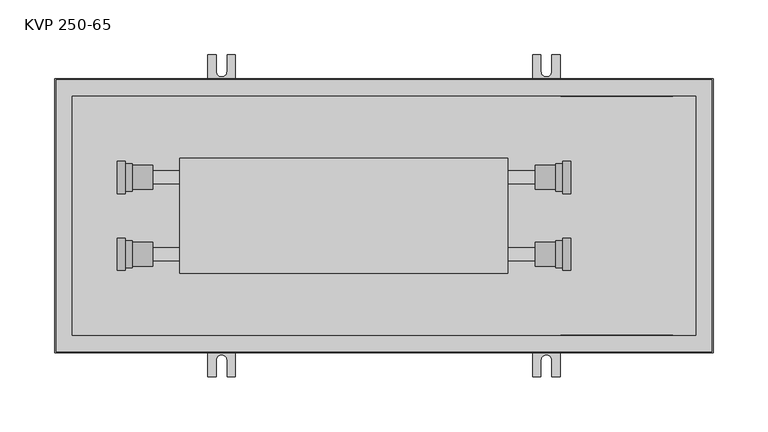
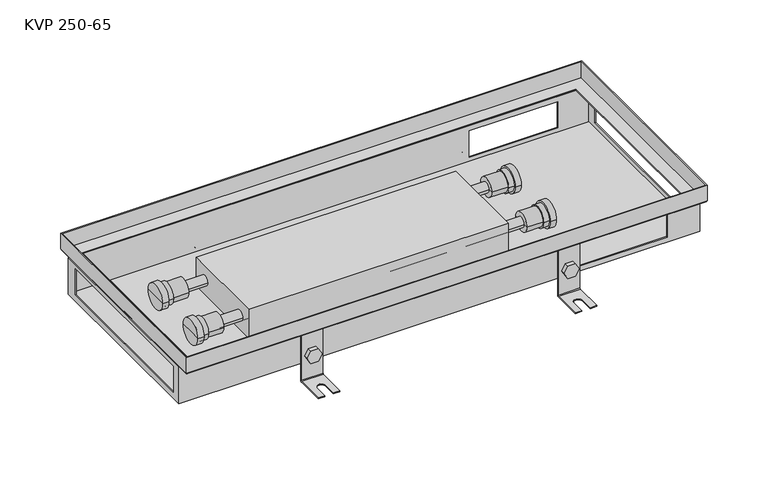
"""IFC4 building model written with IfcOpenShell, lengths in millimetres: proxy geometry, TECHNO_Конвектор встраиваемый_Usual_KVP-250_65 : KVP 250-65."""

from ifc_helpers import new_model, si_unit, point, frame, frame_2d, origin, place, context, project, spatial, polyline, circle_curve, ellipse_curve, trimmed, segment, composite_curve, outline, extrude, faceted_brep, source, transform, mapped, element, save
from ifc_brep_helpers import plane_surface, cylinder_surface, revolved_surface, advanced_brep


def kvp_250_65_a84a4c21(model_context):
    return source(origin(), model_context, "Body", "SolidModel", [
        extrude(outline(composite_curve([segment(trimmed(circle_curve(frame_2d((-55.5, 448.0)), 7.5), [point((-55.5, 440.5))], [point((-55.5, 455.5))], False, "CARTESIAN"), True, "CONTINUOUS"), segment(trimmed(circle_curve(frame_2d((-55.5, 448.0)), 7.5), [point((-55.5, 455.5))], [point((-55.5, 440.5))], False, "CARTESIAN"), True, "CONTINUOUS")], self_intersect=False)), frame((0.0, 110.2, 0.0), z_axis=(0.0, 1.0, 0.0), x_axis=(0.0, 0.0, 1.0)), (0.0, 0.0, 1.0), 1.5),
        extrude(outline(polyline([(-55.5, 439.339746), (-63.0, 443.669873), (-63.0, 452.330127), (-55.5, 456.660254), (-48.0, 452.330127), (-48.0, 443.669873), (-55.5, 439.339746)])), frame((0.0, 112.9, 0.0), z_axis=(0.0, 1.0, 0.0), x_axis=(0.0, 0.0, 1.0)), (0.0, 0.0, 1.0), 5.1),
        advanced_brep(
        [(460.5, 112.9, -20.5), (460.5, 111.7, -20.5), (460.5, 111.7, -83.5), (460.5, 113.7, -85.5), (460.5, 146.7, -85.5), (460.5, 146.7, -84.3), (460.5, 113.7, -84.3), (460.5, 112.9, -83.5), (435.5, 112.9, -20.5), (435.5, 112.9, -83.5), (435.5, 113.7, -84.3), (435.5, 146.7, -84.3), (435.5, 146.7, -85.5), (435.5, 113.7, -85.5), (435.5, 111.7, -83.5), (435.5, 111.7, -20.5), (453.0, 146.7, -84.3), (453.0, 131.7, -84.3), (443.0, 131.7, -84.3), (443.0, 146.7, -84.3), (443.0, 146.7, -85.5), (453.0, 146.7, -85.5), (443.0, 131.7, -85.5), (453.0, 131.7, -85.5)],
        [
            (0, 1),
            (1, 2),
            (2, 3, circle_curve(frame((460.5, 113.7, -83.5), z_axis=(1.0, 0.0, 0.0), x_axis=(0.0, 1.0, 0.0)), 2.0)),
            (3, 4),
            (4, 5),
            (5, 6),
            (6, 7, circle_curve(frame((460.5, 113.7, -83.5), z_axis=(-1.0, 0.0, 0.0), x_axis=(0.0, 1.0, 0.0)), 0.8)),
            (7, 0),
            (8, 9),
            (9, 10, circle_curve(frame((435.5, 113.7, -83.5), z_axis=(1.0, 0.0, 0.0), x_axis=(0.0, 1.0, 0.0)), 0.8)),
            (10, 11),
            (11, 12),
            (12, 13),
            (13, 14, circle_curve(frame((435.5, 113.7, -83.5), z_axis=(-1.0, 0.0, 0.0), x_axis=(0.0, 1.0, 0.0)), 2.0)),
            (14, 15),
            (15, 8),
            (7, 9),
            (8, 0),
            (6, 10),
            (5, 16),
            (16, 17),
            (17, 18, circle_curve(frame((448.0, 131.7, -84.3), z_axis=(0.0, 0.0, -1.0), x_axis=(1.0, 0.0, 0.0)), 5.0)),
            (18, 19),
            (19, 11),
            (19, 20),
            (20, 12),
            (4, 21),
            (21, 16),
            (3, 13),
            (20, 22),
            (22, 23, circle_curve(frame((448.0, 131.7, -85.5), z_axis=(0.0, 0.0, 1.0), x_axis=(1.0, 0.0, 0.0)), 5.0)),
            (23, 21),
            (2, 14),
            (1, 15),
            (18, 22),
            (23, 17),
        ],
        [
            plane_surface(frame((460.5, 112.9, -20.5), z_axis=(1.0, 0.0, 0.0), x_axis=(0.0, 0.0, -1.0))),
            plane_surface(frame((435.5, 112.9, -20.5), z_axis=(-1.0, 0.0, 0.0), x_axis=(0.0, 0.0, 1.0))),
            plane_surface(frame((460.5, 112.9, -20.5), z_axis=(0.0, 1.0, 0.0), x_axis=(-1.0, 0.0, 0.0))),
            revolved_surface(polyline([(435.5, 114.5, -83.5), (460.5, 114.5, -83.5)]), (435.5, 113.7, -83.5), (-1.0, 0.0, 0.0)),
            plane_surface(frame((460.5, 113.7, -84.3), z_axis=(0.0, 0.0, 1.0), x_axis=(-1.0, 0.0, 0.0))),
            plane_surface(frame((460.5, 146.7, -84.3), z_axis=(0.0, 1.0, 0.0), x_axis=(-1.0, 0.0, 0.0))),
            plane_surface(frame((460.5, 146.7, -85.5), z_axis=(0.0, 0.0, -1.0), x_axis=(-1.0, 0.0, 0.0))),
            cylinder_surface(frame((435.5, 113.7, -83.5), z_axis=(1.0, 0.0, 0.0), x_axis=(0.0, 1.0, 0.0)), 2.0),
            plane_surface(frame((460.5, 111.7, -83.5), z_axis=(0.0, -1.0, 0.0), x_axis=(-1.0, 0.0, 0.0))),
            plane_surface(frame((460.5, 111.7, -20.5), z_axis=(0.0, 0.0, 1.0), x_axis=(-1.0, 0.0, 0.0))),
            plane_surface(frame((443.0, 131.7, -84.3), z_axis=(1.0, 0.0, 0.0), x_axis=(0.0, 0.0, -1.0))),
            plane_surface(frame((453.0, 146.7, -84.3), z_axis=(-1.0, 0.0, 0.0), x_axis=(0.0, 0.0, -1.0))),
            revolved_surface(polyline([(453.0, 131.7, -84.3), (453.0, 131.7, -85.5)]), (448.0, 131.7, -85.5), (0.0, 0.0, 1.0)),
        ],
        [
            (0, [[1, 2, 3, 4, 5, 6, 7, 8]]),
            (1, [[9, 10, 11, 12, 13, 14, 15, 16]]),
            (2, [[17, -9, 18, -8]]),
            (3, [[19, -10, -17, -7]]),
            (4, [[20, 21, 22, 23, 24, -11, -19, -6]]),
            (5, [[-24, 25, 26, -12]]),
            (5, [[27, 28, -20, -5]]),
            (6, [[29, -13, -26, 30, 31, 32, -27, -4]]),
            (7, [[33, -14, -29, -3]]),
            (8, [[34, -15, -33, -2]]),
            (9, [[-18, -16, -34, -1]]),
            (10, [[-30, -25, -23, 35]]),
            (11, [[-21, -28, -32, 36]]),
            (12, [[-22, -36, -31, -35]]),
        ],
    ),
        extrude(outline(composite_curve([segment(trimmed(circle_curve(frame_2d((-55.5, 448.0)), 7.5), [point((-55.5, 440.5))], [point((-55.5, 455.5))], False, "CARTESIAN"), True, "CONTINUOUS"), segment(trimmed(circle_curve(frame_2d((-55.5, 448.0)), 7.5), [point((-55.5, 455.5))], [point((-55.5, 440.5))], False, "CARTESIAN"), True, "CONTINUOUS")], self_intersect=False)), frame((0.0, -111.7, 0.0), z_axis=(0.0, 1.0, 0.0), x_axis=(0.0, 0.0, 1.0)), (0.0, 0.0, 1.0), 1.5),
        extrude(outline(polyline([(-55.5, 439.339746), (-63.0, 443.669873), (-63.0, 452.330127), (-55.5, 456.660254), (-48.0, 452.330127), (-48.0, 443.669873), (-55.5, 439.339746)])), frame((0.0, -118.0, 0.0), z_axis=(0.0, 1.0, 0.0), x_axis=(0.0, 0.0, 1.0)), (0.0, 0.0, 1.0), 5.1),
        advanced_brep(
        [(460.5, -112.9, -20.5), (460.5, -112.9, -83.5), (460.5, -113.7, -84.3), (460.5, -146.7, -84.3), (460.5, -146.7, -85.5), (460.5, -113.7, -85.5), (460.5, -111.7, -83.5), (460.5, -111.7, -20.5), (435.5, -112.9, -20.5), (435.5, -111.7, -20.5), (435.5, -111.7, -83.5), (435.5, -113.7, -85.5), (435.5, -146.7, -85.5), (435.5, -146.7, -84.3), (435.5, -113.7, -84.3), (435.5, -112.9, -83.5), (443.0, -146.7, -84.3), (443.0, -131.7, -84.3), (453.0, -131.7, -84.3), (453.0, -146.7, -84.3), (453.0, -146.7, -85.5), (443.0, -146.7, -85.5), (453.0, -131.7, -85.5), (443.0, -131.7, -85.5)],
        [
            (0, 1),
            (1, 2, circle_curve(frame((460.5, -113.7, -83.5), z_axis=(-1.0, 0.0, 0.0), x_axis=(0.0, -1.0, 0.0)), 0.8)),
            (2, 3),
            (3, 4),
            (4, 5),
            (5, 6, circle_curve(frame((460.5, -113.7, -83.5), z_axis=(1.0, 0.0, 0.0), x_axis=(0.0, -1.0, 0.0)), 2.0)),
            (6, 7),
            (7, 0),
            (8, 9),
            (9, 10),
            (10, 11, circle_curve(frame((435.5, -113.7, -83.5), z_axis=(-1.0, 0.0, 0.0), x_axis=(0.0, -1.0, 0.0)), 2.0)),
            (11, 12),
            (12, 13),
            (13, 14),
            (14, 15, circle_curve(frame((435.5, -113.7, -83.5), z_axis=(1.0, 0.0, 0.0), x_axis=(0.0, -1.0, 0.0)), 0.8)),
            (15, 8),
            (0, 8),
            (15, 1),
            (14, 2),
            (13, 16),
            (16, 17),
            (17, 18, circle_curve(frame((448.0, -131.7, -84.3), z_axis=(0.0, 0.0, -1.0), x_axis=(1.0, 0.0, 0.0)), 5.0)),
            (18, 19),
            (19, 3),
            (19, 20),
            (20, 4),
            (12, 21),
            (21, 16),
            (20, 22),
            (22, 23, circle_curve(frame((448.0, -131.7, -85.5), z_axis=(0.0, 0.0, 1.0), x_axis=(1.0, 0.0, 0.0)), 5.0)),
            (23, 21),
            (11, 5),
            (10, 6),
            (9, 7),
            (23, 17),
            (18, 22),
        ],
        [
            plane_surface(frame((460.5, -112.9, -20.5), z_axis=(1.0, 0.0, 0.0), x_axis=(0.0, 0.0, -1.0))),
            plane_surface(frame((435.5, -112.9, -20.5), z_axis=(-1.0, 0.0, 0.0), x_axis=(0.0, 0.0, 1.0))),
            plane_surface(frame((460.5, -112.9, -20.5), z_axis=(0.0, -1.0, 0.0), x_axis=(-1.0, 0.0, 0.0))),
            revolved_surface(polyline([(435.5, -114.5, -83.5), (460.5, -114.5, -83.5)]), (435.5, -113.7, -83.5), (-1.0, 0.0, 0.0)),
            plane_surface(frame((460.5, -113.7, -84.3), z_axis=(0.0, 0.0, 1.0), x_axis=(-1.0, 0.0, 0.0))),
            plane_surface(frame((460.5, -146.7, -84.3), z_axis=(0.0, -1.0, 0.0), x_axis=(-1.0, 0.0, 0.0))),
            plane_surface(frame((460.5, -146.7, -85.5), z_axis=(0.0, 0.0, -1.0), x_axis=(-1.0, 0.0, 0.0))),
            cylinder_surface(frame((435.5, -113.7, -83.5), z_axis=(1.0, 0.0, 0.0), x_axis=(0.0, -1.0, 0.0)), 2.0),
            plane_surface(frame((460.5, -111.7, -83.5), z_axis=(0.0, 1.0, 0.0), x_axis=(-1.0, 0.0, 0.0))),
            plane_surface(frame((460.5, -111.7, -20.5), z_axis=(0.0, 0.0, 1.0), x_axis=(-1.0, 0.0, 0.0))),
            plane_surface(frame((443.0, -131.7, -84.3), z_axis=(1.0, 0.0, 0.0), x_axis=(0.0, 0.0, -1.0))),
            plane_surface(frame((453.0, -146.7, -84.3), z_axis=(-1.0, 0.0, 0.0), x_axis=(0.0, 0.0, -1.0))),
            revolved_surface(polyline([(453.0, -131.7, -84.3), (453.0, -131.7, -85.5)]), (448.0, -131.7, -85.5), (0.0, 0.0, 1.0)),
        ],
        [
            (0, [[1, 2, 3, 4, 5, 6, 7, 8]]),
            (1, [[9, 10, 11, 12, 13, 14, 15, 16]]),
            (2, [[-1, 17, -16, 18]]),
            (3, [[-2, -18, -15, 19]]),
            (4, [[-3, -19, -14, 20, 21, 22, 23, 24]]),
            (5, [[-4, -24, 25, 26]]),
            (5, [[-13, 27, 28, -20]]),
            (6, [[-5, -26, 29, 30, 31, -27, -12, 32]]),
            (7, [[-6, -32, -11, 33]]),
            (8, [[-7, -33, -10, 34]]),
            (9, [[-8, -34, -9, -17]]),
            (10, [[35, -21, -28, -31]]),
            (11, [[36, -29, -25, -23]]),
            (12, [[-35, -30, -36, -22]]),
        ],
    ),
        extrude(outline(composite_curve([segment(trimmed(circle_curve(frame_2d((-55.5, 152.0)), 7.5), [point((-55.5, 144.5))], [point((-55.5, 159.5))], False, "CARTESIAN"), True, "CONTINUOUS"), segment(trimmed(circle_curve(frame_2d((-55.5, 152.0)), 7.5), [point((-55.5, 159.5))], [point((-55.5, 144.5))], False, "CARTESIAN"), True, "CONTINUOUS")], self_intersect=False)), frame((0.0, 110.2, 0.0), z_axis=(0.0, 1.0, 0.0), x_axis=(0.0, 0.0, 1.0)), (0.0, 0.0, 1.0), 1.5),
        extrude(outline(polyline([(-55.5, 143.339746), (-63.0, 147.669873), (-63.0, 156.330127), (-55.5, 160.660254), (-48.0, 156.330127), (-48.0, 147.669873), (-55.5, 143.339746)])), frame((0.0, 112.9, 0.0), z_axis=(0.0, 1.0, 0.0), x_axis=(0.0, 0.0, 1.0)), (0.0, 0.0, 1.0), 5.1),
        advanced_brep(
        [(164.5, 112.9, -20.5), (164.5, 111.7, -20.5), (164.5, 111.7, -83.5), (164.5, 113.7, -85.5), (164.5, 146.7, -85.5), (164.5, 146.7, -84.3), (164.5, 113.7, -84.3), (164.5, 112.9, -83.5), (139.5, 112.9, -20.5), (139.5, 112.9, -83.5), (139.5, 113.7, -84.3), (139.5, 146.7, -84.3), (139.5, 146.7, -85.5), (139.5, 113.7, -85.5), (139.5, 111.7, -83.5), (139.5, 111.7, -20.5), (157.0, 146.7, -84.3), (157.0, 131.7, -84.3), (147.0, 131.7, -84.3), (147.0, 146.7, -84.3), (147.0, 146.7, -85.5), (157.0, 146.7, -85.5), (147.0, 131.7, -85.5), (157.0, 131.7, -85.5)],
        [
            (0, 1),
            (1, 2),
            (2, 3, circle_curve(frame((164.5, 113.7, -83.5), z_axis=(1.0, 0.0, 0.0), x_axis=(0.0, 1.0, 0.0)), 2.0)),
            (3, 4),
            (4, 5),
            (5, 6),
            (6, 7, circle_curve(frame((164.5, 113.7, -83.5), z_axis=(-1.0, 0.0, 0.0), x_axis=(0.0, 1.0, 0.0)), 0.8)),
            (7, 0),
            (8, 9),
            (9, 10, circle_curve(frame((139.5, 113.7, -83.5), z_axis=(1.0, 0.0, 0.0), x_axis=(0.0, 1.0, 0.0)), 0.8)),
            (10, 11),
            (11, 12),
            (12, 13),
            (13, 14, circle_curve(frame((139.5, 113.7, -83.5), z_axis=(-1.0, 0.0, 0.0), x_axis=(0.0, 1.0, 0.0)), 2.0)),
            (14, 15),
            (15, 8),
            (7, 9),
            (8, 0),
            (6, 10),
            (5, 16),
            (16, 17),
            (17, 18, circle_curve(frame((152.0, 131.7, -84.3), z_axis=(0.0, 0.0, -1.0), x_axis=(1.0, 0.0, 0.0)), 5.0)),
            (18, 19),
            (19, 11),
            (19, 20),
            (20, 12),
            (4, 21),
            (21, 16),
            (3, 13),
            (20, 22),
            (22, 23, circle_curve(frame((152.0, 131.7, -85.5), z_axis=(0.0, 0.0, 1.0), x_axis=(1.0, 0.0, 0.0)), 5.0)),
            (23, 21),
            (2, 14),
            (1, 15),
            (18, 22),
            (23, 17),
        ],
        [
            plane_surface(frame((164.5, 112.9, -20.5), z_axis=(1.0, 0.0, 0.0), x_axis=(0.0, 0.0, -1.0))),
            plane_surface(frame((139.5, 112.9, -20.5), z_axis=(-1.0, 0.0, 0.0), x_axis=(0.0, 0.0, 1.0))),
            plane_surface(frame((164.5, 112.9, -20.5), z_axis=(0.0, 1.0, 0.0), x_axis=(-1.0, 0.0, 0.0))),
            revolved_surface(polyline([(139.5, 114.5, -83.5), (164.5, 114.5, -83.5)]), (139.5, 113.7, -83.5), (-1.0, 0.0, 0.0)),
            plane_surface(frame((164.5, 113.7, -84.3), z_axis=(0.0, 0.0, 1.0), x_axis=(-1.0, 0.0, 0.0))),
            plane_surface(frame((164.5, 146.7, -84.3), z_axis=(0.0, 1.0, 0.0), x_axis=(-1.0, 0.0, 0.0))),
            plane_surface(frame((164.5, 146.7, -85.5), z_axis=(0.0, 0.0, -1.0), x_axis=(-1.0, 0.0, 0.0))),
            cylinder_surface(frame((139.5, 113.7, -83.5), z_axis=(1.0, 0.0, 0.0), x_axis=(0.0, 1.0, 0.0)), 2.0),
            plane_surface(frame((164.5, 111.7, -83.5), z_axis=(0.0, -1.0, 0.0), x_axis=(-1.0, 0.0, 0.0))),
            plane_surface(frame((164.5, 111.7, -20.5), z_axis=(0.0, 0.0, 1.0), x_axis=(-1.0, 0.0, 0.0))),
            plane_surface(frame((147.0, 131.7, -84.3), z_axis=(1.0, 0.0, 0.0), x_axis=(0.0, 0.0, -1.0))),
            plane_surface(frame((157.0, 146.7, -84.3), z_axis=(-1.0, 0.0, 0.0), x_axis=(0.0, 0.0, -1.0))),
            revolved_surface(polyline([(157.0, 131.7, -84.3), (157.0, 131.7, -85.5)]), (152.0, 131.7, -85.5), (0.0, 0.0, 1.0)),
        ],
        [
            (0, [[1, 2, 3, 4, 5, 6, 7, 8]]),
            (1, [[9, 10, 11, 12, 13, 14, 15, 16]]),
            (2, [[17, -9, 18, -8]]),
            (3, [[19, -10, -17, -7]]),
            (4, [[20, 21, 22, 23, 24, -11, -19, -6]]),
            (5, [[-24, 25, 26, -12]]),
            (5, [[27, 28, -20, -5]]),
            (6, [[29, -13, -26, 30, 31, 32, -27, -4]]),
            (7, [[33, -14, -29, -3]]),
            (8, [[34, -15, -33, -2]]),
            (9, [[-18, -16, -34, -1]]),
            (10, [[-30, -25, -23, 35]]),
            (11, [[-21, -28, -32, 36]]),
            (12, [[-22, -36, -31, -35]]),
        ],
    ),
        extrude(outline(composite_curve([segment(trimmed(circle_curve(frame_2d((-55.5, 152.0)), 7.5), [point((-55.5, 144.5))], [point((-55.5, 159.5))], False, "CARTESIAN"), True, "CONTINUOUS"), segment(trimmed(circle_curve(frame_2d((-55.5, 152.0)), 7.5), [point((-55.5, 159.5))], [point((-55.5, 144.5))], False, "CARTESIAN"), True, "CONTINUOUS")], self_intersect=False)), frame((0.0, -111.7, 0.0), z_axis=(0.0, 1.0, 0.0), x_axis=(0.0, 0.0, 1.0)), (0.0, 0.0, 1.0), 1.5),
        extrude(outline(polyline([(-55.5, 143.339746), (-63.0, 147.669873), (-63.0, 156.330127), (-55.5, 160.660254), (-48.0, 156.330127), (-48.0, 147.669873), (-55.5, 143.339746)])), frame((0.0, -118.0, 0.0), z_axis=(0.0, 1.0, 0.0), x_axis=(0.0, 0.0, 1.0)), (0.0, 0.0, 1.0), 5.1),
        advanced_brep(
        [(164.5, -112.9, -20.5), (164.5, -112.9, -83.5), (164.5, -113.7, -84.3), (164.5, -146.7, -84.3), (164.5, -146.7, -85.5), (164.5, -113.7, -85.5), (164.5, -111.7, -83.5), (164.5, -111.7, -20.5), (139.5, -112.9, -20.5), (139.5, -111.7, -20.5), (139.5, -111.7, -83.5), (139.5, -113.7, -85.5), (139.5, -146.7, -85.5), (139.5, -146.7, -84.3), (139.5, -113.7, -84.3), (139.5, -112.9, -83.5), (147.0, -146.7, -84.3), (147.0, -131.7, -84.3), (157.0, -131.7, -84.3), (157.0, -146.7, -84.3), (157.0, -146.7, -85.5), (147.0, -146.7, -85.5), (157.0, -131.7, -85.5), (147.0, -131.7, -85.5)],
        [
            (0, 1),
            (1, 2, circle_curve(frame((164.5, -113.7, -83.5), z_axis=(-1.0, 0.0, 0.0), x_axis=(0.0, -1.0, 0.0)), 0.8)),
            (2, 3),
            (3, 4),
            (4, 5),
            (5, 6, circle_curve(frame((164.5, -113.7, -83.5), z_axis=(1.0, 0.0, 0.0), x_axis=(0.0, -1.0, 0.0)), 2.0)),
            (6, 7),
            (7, 0),
            (8, 9),
            (9, 10),
            (10, 11, circle_curve(frame((139.5, -113.7, -83.5), z_axis=(-1.0, 0.0, 0.0), x_axis=(0.0, -1.0, 0.0)), 2.0)),
            (11, 12),
            (12, 13),
            (13, 14),
            (14, 15, circle_curve(frame((139.5, -113.7, -83.5), z_axis=(1.0, 0.0, 0.0), x_axis=(0.0, -1.0, 0.0)), 0.8)),
            (15, 8),
            (0, 8),
            (15, 1),
            (14, 2),
            (13, 16),
            (16, 17),
            (17, 18, circle_curve(frame((152.0, -131.7, -84.3), z_axis=(0.0, 0.0, -1.0), x_axis=(1.0, 0.0, 0.0)), 5.0)),
            (18, 19),
            (19, 3),
            (19, 20),
            (20, 4),
            (12, 21),
            (21, 16),
            (20, 22),
            (22, 23, circle_curve(frame((152.0, -131.7, -85.5), z_axis=(0.0, 0.0, 1.0), x_axis=(1.0, 0.0, 0.0)), 5.0)),
            (23, 21),
            (11, 5),
            (10, 6),
            (9, 7),
            (23, 17),
            (18, 22),
        ],
        [
            plane_surface(frame((164.5, -112.9, -20.5), z_axis=(1.0, 0.0, 0.0), x_axis=(0.0, 0.0, -1.0))),
            plane_surface(frame((139.5, -112.9, -20.5), z_axis=(-1.0, 0.0, 0.0), x_axis=(0.0, 0.0, 1.0))),
            plane_surface(frame((164.5, -112.9, -20.5), z_axis=(0.0, -1.0, 0.0), x_axis=(-1.0, 0.0, 0.0))),
            revolved_surface(polyline([(139.5, -114.5, -83.5), (164.5, -114.5, -83.5)]), (139.5, -113.7, -83.5), (-1.0, 0.0, 0.0)),
            plane_surface(frame((164.5, -113.7, -84.3), z_axis=(0.0, 0.0, 1.0), x_axis=(-1.0, 0.0, 0.0))),
            plane_surface(frame((164.5, -146.7, -84.3), z_axis=(0.0, -1.0, 0.0), x_axis=(-1.0, 0.0, 0.0))),
            plane_surface(frame((164.5, -146.7, -85.5), z_axis=(0.0, 0.0, -1.0), x_axis=(-1.0, 0.0, 0.0))),
            cylinder_surface(frame((139.5, -113.7, -83.5), z_axis=(1.0, 0.0, 0.0), x_axis=(0.0, -1.0, 0.0)), 2.0),
            plane_surface(frame((164.5, -111.7, -83.5), z_axis=(0.0, 1.0, 0.0), x_axis=(-1.0, 0.0, 0.0))),
            plane_surface(frame((164.5, -111.7, -20.5), z_axis=(0.0, 0.0, 1.0), x_axis=(-1.0, 0.0, 0.0))),
            plane_surface(frame((147.0, -131.7, -84.3), z_axis=(1.0, 0.0, 0.0), x_axis=(0.0, 0.0, -1.0))),
            plane_surface(frame((157.0, -146.7, -84.3), z_axis=(-1.0, 0.0, 0.0), x_axis=(0.0, 0.0, -1.0))),
            revolved_surface(polyline([(157.0, -131.7, -84.3), (157.0, -131.7, -85.5)]), (152.0, -131.7, -85.5), (0.0, 0.0, 1.0)),
        ],
        [
            (0, [[1, 2, 3, 4, 5, 6, 7, 8]]),
            (1, [[9, 10, 11, 12, 13, 14, 15, 16]]),
            (2, [[-1, 17, -16, 18]]),
            (3, [[-2, -18, -15, 19]]),
            (4, [[-3, -19, -14, 20, 21, 22, 23, 24]]),
            (5, [[-4, -24, 25, 26]]),
            (5, [[-13, 27, 28, -20]]),
            (6, [[-5, -26, 29, 30, 31, -27, -12, 32]]),
            (7, [[-6, -32, -11, 33]]),
            (8, [[-7, -33, -10, 34]]),
            (9, [[-8, -34, -9, -17]]),
            (10, [[35, -21, -28, -31]]),
            (11, [[36, -29, -25, -23]]),
            (12, [[-35, -30, -36, -22]]),
        ],
    ),
        advanced_brep(
        [(89.0, 24.0, -42.3), (89.0, 46.0, -42.3), (89.0, 35.0, -42.3), (70.5, 24.0, -42.3), (70.5, 46.0, -42.3), (70.5, 22.5, -42.3), (70.5, 47.5, -42.3), (64.0, 22.5, -42.3), (64.0, 47.5, -42.3), (64.0, 20.3, -42.3), (64.0, 49.7, -42.3), (57.0, 20.3, -42.3), (57.0, 49.7, -42.3), (57.0, 35.0, -42.3)],
        [
            (0, 1, circle_curve(frame((89.0, 35.0, -42.3), z_axis=(1.0, 0.0, 0.0), x_axis=(0.0, 1.0, 0.0)), 11.0)),
            (1, 2),
            (2, 0),
            (1, 0, circle_curve(frame((89.0, 35.0, -42.3), z_axis=(1.0, 0.0, 0.0), x_axis=(0.0, 1.0, 0.0)), 11.0)),
            (3, 4, circle_curve(frame((70.5, 35.0, -42.3), z_axis=(1.0, 0.0, 0.0), x_axis=(0.0, 1.0, 0.0)), 11.0)),
            (4, 1),
            (0, 3),
            (4, 3, circle_curve(frame((70.5, 35.0, -42.3), z_axis=(1.0, 0.0, 0.0), x_axis=(0.0, 1.0, 0.0)), 11.0)),
            (5, 6, circle_curve(frame((70.5, 35.0, -42.3), z_axis=(1.0, 0.0, 0.0), x_axis=(0.0, 1.0, 0.0)), 12.5)),
            (6, 4),
            (3, 5),
            (6, 5, circle_curve(frame((70.5, 35.0, -42.3), z_axis=(1.0, 0.0, 0.0), x_axis=(0.0, 1.0, 0.0)), 12.5)),
            (7, 8, circle_curve(frame((64.0, 35.0, -42.3), z_axis=(1.0, 0.0, 0.0), x_axis=(0.0, 1.0, 0.0)), 12.5)),
            (8, 6),
            (5, 7),
            (8, 7, circle_curve(frame((64.0, 35.0, -42.3), z_axis=(1.0, 0.0, 0.0), x_axis=(0.0, 1.0, 0.0)), 12.5)),
            (9, 10, circle_curve(frame((64.0, 35.0, -42.3), z_axis=(1.0, 0.0, 0.0), x_axis=(0.0, 1.0, 0.0)), 14.7)),
            (10, 8),
            (7, 9),
            (10, 9, circle_curve(frame((64.0, 35.0, -42.3), z_axis=(1.0, 0.0, 0.0), x_axis=(0.0, 1.0, 0.0)), 14.7)),
            (11, 12, circle_curve(frame((57.0, 35.0, -42.3), z_axis=(1.0, 0.0, 0.0), x_axis=(0.0, 1.0, 0.0)), 14.7)),
            (12, 10),
            (9, 11),
            (12, 11, circle_curve(frame((57.0, 35.0, -42.3), z_axis=(1.0, 0.0, 0.0), x_axis=(0.0, 1.0, 0.0)), 14.7)),
            (13, 12),
            (11, 13),
        ],
        [
            plane_surface(frame((89.0, 35.0, -42.3), z_axis=(1.0, 0.0, 0.0), x_axis=(0.0, 1.0, 0.0))),
            cylinder_surface(frame((47.0, 35.0, -42.3), z_axis=(-1.0, 0.0, 0.0), x_axis=(0.0, 1.0, 0.0)), 11.0),
            plane_surface(frame((70.5, 35.0, -42.3), z_axis=(1.0, 0.0, 0.0), x_axis=(0.0, 1.0, 0.0))),
            cylinder_surface(frame((47.0, 35.0, -42.3), z_axis=(-1.0, 0.0, 0.0), x_axis=(0.0, 1.0, 0.0)), 12.5),
            plane_surface(frame((64.0, 35.0, -42.3), z_axis=(1.0, 0.0, 0.0), x_axis=(0.0, 1.0, 0.0))),
            cylinder_surface(frame((47.0, 35.0, -42.3), z_axis=(-1.0, 0.0, 0.0), x_axis=(0.0, 1.0, 0.0)), 14.7),
            plane_surface(frame((57.0, 35.0, -42.3), z_axis=(-1.0, 0.0, 0.0), x_axis=(0.0, 1.0, 0.0))),
        ],
        [
            (0, [[1, 2, 3]]),
            (0, [[4, -3, -2]]),
            (1, [[5, 6, -1, 7]]),
            (1, [[8, -7, -4, -6]]),
            (2, [[9, 10, -5, 11]]),
            (2, [[12, -11, -8, -10]]),
            (3, [[13, 14, -9, 15]]),
            (3, [[16, -15, -12, -14]]),
            (4, [[17, 18, -13, 19]]),
            (4, [[20, -19, -16, -18]]),
            (5, [[21, 22, -17, 23]]),
            (5, [[24, -23, -20, -22]]),
            (6, [[25, -21, 26]]),
            (6, [[-26, -24, -25]]),
        ],
    ),
        advanced_brep(
        [(89.0, -46.0, -42.3), (89.0, -24.0, -42.3), (89.0, -35.0, -42.3), (70.5, -46.0, -42.3), (70.5, -24.0, -42.3), (70.5, -47.5, -42.3), (70.5, -22.5, -42.3), (64.0, -47.5, -42.3), (64.0, -22.5, -42.3), (64.0, -49.7, -42.3), (64.0, -20.3, -42.3), (57.0, -49.7, -42.3), (57.0, -20.3, -42.3), (57.0, -35.0, -42.3)],
        [
            (0, 1, circle_curve(frame((89.0, -35.0, -42.3), z_axis=(1.0, 0.0, 0.0), x_axis=(0.0, 1.0, 0.0)), 11.0)),
            (1, 2),
            (2, 0),
            (1, 0, circle_curve(frame((89.0, -35.0, -42.3), z_axis=(1.0, 0.0, 0.0), x_axis=(0.0, 1.0, 0.0)), 11.0)),
            (3, 4, circle_curve(frame((70.5, -35.0, -42.3), z_axis=(1.0, 0.0, 0.0), x_axis=(0.0, 1.0, 0.0)), 11.0)),
            (4, 1),
            (0, 3),
            (4, 3, circle_curve(frame((70.5, -35.0, -42.3), z_axis=(1.0, 0.0, 0.0), x_axis=(0.0, 1.0, 0.0)), 11.0)),
            (5, 6, circle_curve(frame((70.5, -35.0, -42.3), z_axis=(1.0, 0.0, 0.0), x_axis=(0.0, 1.0, 0.0)), 12.5)),
            (6, 4),
            (3, 5),
            (6, 5, circle_curve(frame((70.5, -35.0, -42.3), z_axis=(1.0, 0.0, 0.0), x_axis=(0.0, 1.0, 0.0)), 12.5)),
            (7, 8, circle_curve(frame((64.0, -35.0, -42.3), z_axis=(1.0, 0.0, 0.0), x_axis=(0.0, 1.0, 0.0)), 12.5)),
            (8, 6),
            (5, 7),
            (8, 7, circle_curve(frame((64.0, -35.0, -42.3), z_axis=(1.0, 0.0, 0.0), x_axis=(0.0, 1.0, 0.0)), 12.5)),
            (9, 10, circle_curve(frame((64.0, -35.0, -42.3), z_axis=(1.0, 0.0, 0.0), x_axis=(0.0, 1.0, 0.0)), 14.7)),
            (10, 8),
            (7, 9),
            (10, 9, circle_curve(frame((64.0, -35.0, -42.3), z_axis=(1.0, 0.0, 0.0), x_axis=(0.0, 1.0, 0.0)), 14.7)),
            (11, 12, circle_curve(frame((57.0, -35.0, -42.3), z_axis=(1.0, 0.0, 0.0), x_axis=(0.0, 1.0, 0.0)), 14.7)),
            (12, 10),
            (9, 11),
            (12, 11, circle_curve(frame((57.0, -35.0, -42.3), z_axis=(1.0, 0.0, 0.0), x_axis=(0.0, 1.0, 0.0)), 14.7)),
            (13, 12),
            (11, 13),
        ],
        [
            plane_surface(frame((89.0, -35.0, -42.3), z_axis=(1.0, 0.0, 0.0), x_axis=(0.0, 1.0, 0.0))),
            cylinder_surface(frame((47.0, -35.0, -42.3), z_axis=(-1.0, 0.0, 0.0), x_axis=(0.0, 1.0, 0.0)), 11.0),
            plane_surface(frame((70.5, -35.0, -42.3), z_axis=(1.0, 0.0, 0.0), x_axis=(0.0, 1.0, 0.0))),
            cylinder_surface(frame((47.0, -35.0, -42.3), z_axis=(-1.0, 0.0, 0.0), x_axis=(0.0, 1.0, 0.0)), 12.5),
            plane_surface(frame((64.0, -35.0, -42.3), z_axis=(1.0, 0.0, 0.0), x_axis=(0.0, 1.0, 0.0))),
            cylinder_surface(frame((47.0, -35.0, -42.3), z_axis=(-1.0, 0.0, 0.0), x_axis=(0.0, 1.0, 0.0)), 14.7),
            plane_surface(frame((57.0, -35.0, -42.3), z_axis=(-1.0, 0.0, 0.0), x_axis=(0.0, 1.0, 0.0))),
        ],
        [
            (0, [[1, 2, 3]]),
            (0, [[4, -3, -2]]),
            (1, [[5, 6, -1, 7]]),
            (1, [[8, -7, -4, -6]]),
            (2, [[9, 10, -5, 11]]),
            (2, [[12, -11, -8, -10]]),
            (3, [[13, 14, -9, 15]]),
            (3, [[16, -15, -12, -14]]),
            (4, [[17, 18, -13, 19]]),
            (4, [[20, -19, -16, -18]]),
            (5, [[21, 22, -17, 23]]),
            (5, [[24, -23, -20, -22]]),
            (6, [[25, -21, 26]]),
            (6, [[-26, -24, -25]]),
        ],
    ),
        extrude(outline(polyline([(413.0, 52.5), (413.0, -52.5), (114.0, -52.5), (114.0, 52.5), (413.0, 52.5)])), frame((0.0, 0.0, -59.8), z_axis=(0.0, 0.0, 1.0), x_axis=(1.0, 0.0, 0.0)), (0.0, 0.0, 1.0), 35.0),
        advanced_brep(
        [(438.0, 35.0, -42.3), (438.0, 46.0, -42.3), (438.0, 24.0, -42.3), (456.5, 46.0, -42.3), (456.5, 24.0, -42.3), (456.5, 47.5, -42.3), (456.5, 22.5, -42.3), (463.0, 47.5, -42.3), (463.0, 22.5, -42.3), (463.0, 49.7, -42.3), (463.0, 20.3, -42.3), (470.0, 49.7, -42.3), (470.0, 20.3, -42.3), (470.0, 35.0, -42.3)],
        [
            (0, 1),
            (1, 2, circle_curve(frame((438.0, 35.0, -42.3), z_axis=(-1.0, 0.0, 0.0), x_axis=(0.0, 1.0, 0.0)), 11.0)),
            (2, 0),
            (2, 1, circle_curve(frame((438.0, 35.0, -42.3), z_axis=(-1.0, 0.0, 0.0), x_axis=(0.0, 1.0, 0.0)), 11.0)),
            (1, 3),
            (3, 4, circle_curve(frame((456.5, 35.0, -42.3), z_axis=(-1.0, 0.0, 0.0), x_axis=(0.0, 1.0, 0.0)), 11.0)),
            (4, 2),
            (4, 3, circle_curve(frame((456.5, 35.0, -42.3), z_axis=(-1.0, 0.0, 0.0), x_axis=(0.0, 1.0, 0.0)), 11.0)),
            (3, 5),
            (5, 6, circle_curve(frame((456.5, 35.0, -42.3), z_axis=(-1.0, 0.0, 0.0), x_axis=(0.0, 1.0, 0.0)), 12.5)),
            (6, 4),
            (6, 5, circle_curve(frame((456.5, 35.0, -42.3), z_axis=(-1.0, 0.0, 0.0), x_axis=(0.0, 1.0, 0.0)), 12.5)),
            (5, 7),
            (7, 8, circle_curve(frame((463.0, 35.0, -42.3), z_axis=(-1.0, 0.0, 0.0), x_axis=(0.0, 1.0, 0.0)), 12.5)),
            (8, 6),
            (8, 7, circle_curve(frame((463.0, 35.0, -42.3), z_axis=(-1.0, 0.0, 0.0), x_axis=(0.0, 1.0, 0.0)), 12.5)),
            (7, 9),
            (9, 10, circle_curve(frame((463.0, 35.0, -42.3), z_axis=(-1.0, 0.0, 0.0), x_axis=(0.0, 1.0, 0.0)), 14.7)),
            (10, 8),
            (10, 9, circle_curve(frame((463.0, 35.0, -42.3), z_axis=(-1.0, 0.0, 0.0), x_axis=(0.0, 1.0, 0.0)), 14.7)),
            (9, 11),
            (11, 12, circle_curve(frame((470.0, 35.0, -42.3), z_axis=(-1.0, 0.0, 0.0), x_axis=(0.0, 1.0, 0.0)), 14.7)),
            (12, 10),
            (12, 11, circle_curve(frame((470.0, 35.0, -42.3), z_axis=(-1.0, 0.0, 0.0), x_axis=(0.0, 1.0, 0.0)), 14.7)),
            (11, 13),
            (13, 12),
        ],
        [
            plane_surface(frame((438.0, 35.0, -42.3), z_axis=(-1.0, 0.0, 0.0), x_axis=(0.0, 1.0, 0.0))),
            cylinder_surface(frame((470.0, 35.0, -42.3), z_axis=(-1.0, 0.0, 0.0), x_axis=(0.0, 1.0, 0.0)), 11.0),
            plane_surface(frame((456.5, 35.0, -42.3), z_axis=(-1.0, 0.0, 0.0), x_axis=(0.0, 1.0, 0.0))),
            cylinder_surface(frame((470.0, 35.0, -42.3), z_axis=(-1.0, 0.0, 0.0), x_axis=(0.0, 1.0, 0.0)), 12.5),
            plane_surface(frame((463.0, 35.0, -42.3), z_axis=(-1.0, 0.0, 0.0), x_axis=(0.0, 1.0, 0.0))),
            cylinder_surface(frame((470.0, 35.0, -42.3), z_axis=(-1.0, 0.0, 0.0), x_axis=(0.0, 1.0, 0.0)), 14.7),
            plane_surface(frame((470.0, 35.0, -42.3), z_axis=(1.0, 0.0, 0.0), x_axis=(0.0, 1.0, 0.0))),
        ],
        [
            (0, [[1, 2, 3]]),
            (0, [[-3, 4, -1]]),
            (1, [[-2, 5, 6, 7]]),
            (1, [[-4, -7, 8, -5]]),
            (2, [[-6, 9, 10, 11]]),
            (2, [[-8, -11, 12, -9]]),
            (3, [[-10, 13, 14, 15]]),
            (3, [[-12, -15, 16, -13]]),
            (4, [[-14, 17, 18, 19]]),
            (4, [[-16, -19, 20, -17]]),
            (5, [[-18, 21, 22, 23]]),
            (5, [[-20, -23, 24, -21]]),
            (6, [[-22, 25, 26]]),
            (6, [[-24, -26, -25]]),
        ],
    ),
        advanced_brep(
        [(438.0, -35.0, -42.3), (438.0, -24.0, -42.3), (438.0, -46.0, -42.3), (456.5, -24.0, -42.3), (456.5, -46.0, -42.3), (456.5, -22.5, -42.3), (456.5, -47.5, -42.3), (463.0, -22.5, -42.3), (463.0, -47.5, -42.3), (463.0, -20.3, -42.3), (463.0, -49.7, -42.3), (470.0, -20.3, -42.3), (470.0, -49.7, -42.3), (470.0, -35.0, -42.3)],
        [
            (0, 1),
            (1, 2, circle_curve(frame((438.0, -35.0, -42.3), z_axis=(-1.0, 0.0, 0.0), x_axis=(0.0, 1.0, 0.0)), 11.0)),
            (2, 0),
            (2, 1, circle_curve(frame((438.0, -35.0, -42.3), z_axis=(-1.0, 0.0, 0.0), x_axis=(0.0, 1.0, 0.0)), 11.0)),
            (1, 3),
            (3, 4, circle_curve(frame((456.5, -35.0, -42.3), z_axis=(-1.0, 0.0, 0.0), x_axis=(0.0, 1.0, 0.0)), 11.0)),
            (4, 2),
            (4, 3, circle_curve(frame((456.5, -35.0, -42.3), z_axis=(-1.0, 0.0, 0.0), x_axis=(0.0, 1.0, 0.0)), 11.0)),
            (3, 5),
            (5, 6, circle_curve(frame((456.5, -35.0, -42.3), z_axis=(-1.0, 0.0, 0.0), x_axis=(0.0, 1.0, 0.0)), 12.5)),
            (6, 4),
            (6, 5, circle_curve(frame((456.5, -35.0, -42.3), z_axis=(-1.0, 0.0, 0.0), x_axis=(0.0, 1.0, 0.0)), 12.5)),
            (5, 7),
            (7, 8, circle_curve(frame((463.0, -35.0, -42.3), z_axis=(-1.0, 0.0, 0.0), x_axis=(0.0, 1.0, 0.0)), 12.5)),
            (8, 6),
            (8, 7, circle_curve(frame((463.0, -35.0, -42.3), z_axis=(-1.0, 0.0, 0.0), x_axis=(0.0, 1.0, 0.0)), 12.5)),
            (7, 9),
            (9, 10, circle_curve(frame((463.0, -35.0, -42.3), z_axis=(-1.0, 0.0, 0.0), x_axis=(0.0, 1.0, 0.0)), 14.7)),
            (10, 8),
            (10, 9, circle_curve(frame((463.0, -35.0, -42.3), z_axis=(-1.0, 0.0, 0.0), x_axis=(0.0, 1.0, 0.0)), 14.7)),
            (9, 11),
            (11, 12, circle_curve(frame((470.0, -35.0, -42.3), z_axis=(-1.0, 0.0, 0.0), x_axis=(0.0, 1.0, 0.0)), 14.7)),
            (12, 10),
            (12, 11, circle_curve(frame((470.0, -35.0, -42.3), z_axis=(-1.0, 0.0, 0.0), x_axis=(0.0, 1.0, 0.0)), 14.7)),
            (11, 13),
            (13, 12),
        ],
        [
            plane_surface(frame((438.0, -35.0, -42.3), z_axis=(-1.0, 0.0, 0.0), x_axis=(0.0, 1.0, 0.0))),
            cylinder_surface(frame((470.0, -35.0, -42.3), z_axis=(-1.0, 0.0, 0.0), x_axis=(0.0, 1.0, 0.0)), 11.0),
            plane_surface(frame((456.5, -35.0, -42.3), z_axis=(-1.0, 0.0, 0.0), x_axis=(0.0, 1.0, 0.0))),
            cylinder_surface(frame((470.0, -35.0, -42.3), z_axis=(-1.0, 0.0, 0.0), x_axis=(0.0, 1.0, 0.0)), 12.5),
            plane_surface(frame((463.0, -35.0, -42.3), z_axis=(-1.0, 0.0, 0.0), x_axis=(0.0, 1.0, 0.0))),
            cylinder_surface(frame((470.0, -35.0, -42.3), z_axis=(-1.0, 0.0, 0.0), x_axis=(0.0, 1.0, 0.0)), 14.7),
            plane_surface(frame((470.0, -35.0, -42.3), z_axis=(1.0, 0.0, 0.0), x_axis=(0.0, 1.0, 0.0))),
        ],
        [
            (0, [[1, 2, 3]]),
            (0, [[-3, 4, -1]]),
            (1, [[-2, 5, 6, 7]]),
            (1, [[-4, -7, 8, -5]]),
            (2, [[-6, 9, 10, 11]]),
            (2, [[-8, -11, 12, -9]]),
            (3, [[-10, 13, 14, 15]]),
            (3, [[-12, -15, 16, -13]]),
            (4, [[-14, 17, 18, 19]]),
            (4, [[-16, -19, 20, -17]]),
            (5, [[-18, 21, 22, 23]]),
            (5, [[-20, -23, 24, -21]]),
            (6, [[-22, 25, 26]]),
            (6, [[-24, -26, -25]]),
        ],
    ),
        extrude(outline(composite_curve([segment(trimmed(circle_curve(frame_2d((35.0, -42.3)), 6.0), [point((29.0, -42.3))], [point((41.0, -42.3))], False, "CARTESIAN"), True, "CONTINUOUS"), segment(trimmed(circle_curve(frame_2d((35.0, -42.3)), 6.0), [point((41.0, -42.3))], [point((29.0, -42.3))], False, "CARTESIAN"), True, "CONTINUOUS")], self_intersect=False)), frame((89.0, 0.0, 0.0), z_axis=(1.0, 0.0, 0.0), x_axis=(0.0, 1.0, 0.0)), (0.0, 0.0, 1.0), 349.0),
        extrude(outline(composite_curve([segment(trimmed(circle_curve(frame_2d((-35.0, -42.3)), 6.0), [point((-41.0, -42.3))], [point((-29.0, -42.3))], False, "CARTESIAN"), True, "CONTINUOUS"), segment(trimmed(circle_curve(frame_2d((-35.0, -42.3)), 6.0), [point((-29.0, -42.3))], [point((-41.0, -42.3))], False, "CARTESIAN"), True, "CONTINUOUS")], self_intersect=False)), frame((89.0, 0.0, 0.0), z_axis=(1.0, 0.0, 0.0), x_axis=(0.0, 1.0, 0.0)), (0.0, 0.0, 1.0), 349.0),
        faceted_brep([(598.8, -109.0, -63.8), (598.8, 109.0, -63.8), (1.2, 109.0, -63.8), (1.2, -109.0, -63.8), (0.0, -110.2, -65.0), (0.0, 110.2, -65.0), (600.0, 110.2, -65.0), (600.0, -110.2, -65.0), (600.0, -110.2, -20.5), (0.0, -110.2, -20.5), (461.0, -110.2, -27.0), (563.0, -110.2, -27.0), (563.0, -110.2, -59.0), (461.0, -110.2, -59.0), (600.0, 110.2, -20.5), (600.0, 97.0, -26.0), (600.0, 97.0, -58.0), (600.0, -99.0, -58.0), (600.0, -99.0, -26.0), (0.0, 110.2, -20.5), (563.0, 110.2, -27.0), (461.0, 110.2, -27.0), (461.0, 110.2, -59.0), (563.0, 110.2, -59.0), (0.0, 97.0, -58.0), (0.0, 97.0, -26.0), (0.0, -99.0, -26.0), (0.0, -99.0, -58.0), (598.8, -109.0, -20.5), (598.8, 109.0, -20.5), (598.8, 97.0, -58.0), (598.8, 97.0, -26.0), (598.8, -99.0, -26.0), (598.8, -99.0, -58.0), (1.2, -109.0, -20.5), (563.0, -109.0, -27.0), (461.0, -109.0, -27.0), (461.0, -109.0, -59.0), (563.0, -109.0, -59.0), (1.2, 109.0, -20.5), (1.2, 97.0, -26.0), (1.2, 97.0, -58.0), (1.2, -99.0, -58.0), (1.2, -99.0, -26.0), (461.0, 109.0, -27.0), (563.0, 109.0, -27.0), (563.0, 109.0, -59.0), (461.0, 109.0, -59.0)], [[[0, 1, 2, 3]], [[4, 5, 6, 7]], [[4, 7, 8, 9], [10, 11, 12, 13]], [[7, 6, 14, 8], [15, 16, 17, 18]], [[6, 5, 19, 14], [20, 21, 22, 23]], [[5, 4, 9, 19], [24, 25, 26, 27]], [[28, 29, 1, 0], [30, 31, 32, 33]], [[34, 28, 0, 3], [35, 36, 37, 38]], [[39, 34, 3, 2], [40, 41, 42, 43]], [[29, 39, 2, 1], [44, 45, 46, 47]], [[8, 14, 19, 9], [29, 28, 34, 39]], [[35, 11, 10, 36]], [[20, 45, 44, 21]], [[36, 10, 13, 37]], [[21, 44, 47, 22]], [[37, 13, 12, 38]], [[22, 47, 46, 23]], [[11, 35, 38, 12]], [[45, 20, 23, 46]], [[15, 31, 30, 16]], [[31, 15, 18, 32]], [[32, 18, 17, 33]], [[16, 30, 33, 17]], [[24, 41, 40, 25]], [[25, 40, 43, 26]], [[26, 43, 42, 27]], [[41, 24, 27, 42]]]),
        advanced_brep(
        [(584.0, 109.0, -19.3), (584.0, 109.0, -20.5), (584.0, -109.0, -20.5), (584.0, -109.0, -19.3), (598.8, 123.8, 0.0), (598.8, 123.8, -19.3), (598.8, -123.8, -19.3), (598.8, -123.8, 0.0), (600.0, 125.0, -18.5), (600.0, 125.0, 0.0), (600.0, -125.0, 0.0), (600.0, -125.0, -18.5), (16.0, -109.0, -20.5), (16.0, -109.0, -19.3), (1.2, -123.8, -19.3), (1.2, -123.8, 0.0), (0.0, -125.0, 0.0), (0.0, -125.0, -18.5), (16.0, 109.0, -20.5), (16.0, 109.0, -19.3), (1.2, 123.8, -19.3), (1.2, 123.8, 0.0), (0.0, 125.0, 0.0), (0.0, 125.0, -18.5), (598.0, -123.0, -20.5), (2.0, -123.0, -20.5), (2.0, 123.0, -20.5), (598.0, 123.0, -20.5)],
        [
            (0, 1),
            (1, 2),
            (2, 3),
            (3, 0),
            (4, 5),
            (5, 6),
            (6, 7),
            (7, 4),
            (8, 9),
            (9, 10),
            (10, 11),
            (11, 8),
            (2, 12),
            (12, 13),
            (13, 3),
            (6, 14),
            (14, 15),
            (15, 7),
            (10, 16),
            (16, 17),
            (17, 11),
            (12, 18),
            (18, 19),
            (19, 13),
            (14, 20),
            (20, 21),
            (21, 15),
            (16, 22),
            (22, 23),
            (23, 17),
            (24, 25),
            (25, 26),
            (26, 27),
            (27, 24),
            (1, 18),
            (0, 19),
            (5, 20),
            (4, 21),
            (9, 22),
            (8, 23),
            (27, 8, ellipse_curve(frame((598.0, 123.0, -18.5), z_axis=(0.7071067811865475, -0.7071067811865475, 0.0), x_axis=(0.7071067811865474, 0.7071067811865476, 0.0)), 2.8284271, 2.0)),
            (11, 24, ellipse_curve(frame((598.0, -123.0, -18.5), z_axis=(0.7071067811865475, 0.7071067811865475, 0.0), x_axis=(-0.7071067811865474, 0.7071067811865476, 0.0)), 2.8284271, 2.0)),
            (17, 25, ellipse_curve(frame((2.0, -123.0, -18.5), z_axis=(0.7071067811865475, -0.7071067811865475, 0.0), x_axis=(0.7071067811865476, 0.7071067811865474, 0.0)), 2.8284271, 2.0)),
            (23, 26, ellipse_curve(frame((2.0, 123.0, -18.5), z_axis=(-0.7071067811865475, -0.7071067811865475, 0.0), x_axis=(0.7071067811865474, -0.7071067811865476, 0.0)), 2.8284271, 2.0)),
        ],
        [
            plane_surface(frame((584.0, 109.0, -20.5), z_axis=(-1.0, 0.0, 0.0), x_axis=(0.0, -1.0, 0.0))),
            plane_surface(frame((598.8, 123.8, -19.3), z_axis=(-1.0, 0.0, 0.0), x_axis=(0.0, -1.0, 0.0))),
            plane_surface(frame((600.0, 125.0, 0.0), z_axis=(1.0, 0.0, 0.0), x_axis=(0.0, -1.0, 0.0))),
            plane_surface(frame((584.0, -109.0, -20.5), z_axis=(0.0, 1.0, 0.0), x_axis=(-1.0, 0.0, 0.0))),
            plane_surface(frame((598.8, -123.8, -19.3), z_axis=(0.0, 1.0, 0.0), x_axis=(-1.0, 0.0, 0.0))),
            plane_surface(frame((600.0, -125.0, 0.0), z_axis=(0.0, -1.0, 0.0), x_axis=(-1.0, 0.0, 0.0))),
            plane_surface(frame((16.0, -109.0, -20.5), z_axis=(1.0, 0.0, 0.0), x_axis=(0.0, 1.0, 0.0))),
            plane_surface(frame((1.2, -123.8, -19.3), z_axis=(1.0, 0.0, 0.0), x_axis=(0.0, 1.0, 0.0))),
            plane_surface(frame((0.0, -125.0, 0.0), z_axis=(-1.0, 0.0, 0.0), x_axis=(0.0, 1.0, 0.0))),
            plane_surface(frame((2.0, 123.0, -20.5), z_axis=(0.0, 0.0, -1.0), x_axis=(1.0, 0.0, 0.0))),
            plane_surface(frame((16.0, 109.0, -20.5), z_axis=(0.0, -1.0, 0.0), x_axis=(1.0, 0.0, 0.0))),
            plane_surface(frame((16.0, 109.0, -19.3), z_axis=(0.0, 0.0, 1.0), x_axis=(1.0, 0.0, 0.0))),
            plane_surface(frame((1.2, 123.8, -19.3), z_axis=(0.0, -1.0, 0.0), x_axis=(1.0, 0.0, 0.0))),
            plane_surface(frame((1.2, 123.8, 0.0), z_axis=(0.0, 0.0, 1.0), x_axis=(1.0, 0.0, 0.0))),
            plane_surface(frame((0.0, 125.0, 0.0), z_axis=(0.0, 1.0, 0.0), x_axis=(1.0, 0.0, 0.0))),
            cylinder_surface(frame((598.0, 125.0, -18.5), z_axis=(0.0, 1.0, 0.0), x_axis=(1.0, 0.0, 0.0)), 2.0),
            cylinder_surface(frame((600.0, -123.0, -18.5), z_axis=(1.0, 0.0, 0.0), x_axis=(0.0, -1.0, 0.0)), 2.0),
            cylinder_surface(frame((2.0, -125.0, -18.5), z_axis=(0.0, -1.0, 0.0), x_axis=(-1.0, 0.0, 0.0)), 2.0),
            cylinder_surface(frame((0.0, 123.0, -18.5), z_axis=(-1.0, 0.0, 0.0), x_axis=(0.0, 1.0, 0.0)), 2.0),
        ],
        [
            (0, [[1, 2, 3, 4]]),
            (1, [[5, 6, 7, 8]]),
            (2, [[9, 10, 11, 12]]),
            (3, [[-3, 13, 14, 15]]),
            (4, [[-7, 16, 17, 18]]),
            (5, [[-11, 19, 20, 21]]),
            (6, [[-14, 22, 23, 24]]),
            (7, [[-17, 25, 26, 27]]),
            (8, [[-20, 28, 29, 30]]),
            (9, [[31, 32, 33, 34], [35, -22, -13, -2]]),
            (10, [[-23, -35, -1, 36]]),
            (11, [[37, -25, -16, -6], [-15, -24, -36, -4]]),
            (12, [[-26, -37, -5, 38]]),
            (13, [[39, -28, -19, -10], [-18, -27, -38, -8]]),
            (14, [[-29, -39, -9, 40]]),
            (15, [[41, -12, 42, -34]]),
            (16, [[-42, -21, 43, -31]]),
            (17, [[-43, -30, 44, -32]]),
            (18, [[-44, -40, -41, -33]]),
        ],
    ),
    ])


if __name__ == "__main__":
    model = new_model("IFC4")
    model_context = context("Model", 3, world=origin())
    ifc_project = project(units=[si_unit("LENGTHUNIT", "METRE", prefix="MILLI")], contexts=[model_context])
    site = spatial("IfcSite", under=ifc_project)
    building = spatial("IfcBuilding", under=site)
    placement = place(None, origin())
    kvp_250_65_shape = kvp_250_65_a84a4c21(model_context)
    element("IfcBuildingElementProxy", 1, Name="TECHNO_Конвектор встраиваемый_Usual_KVP-250_65 : KVP 250-65", ObjectType="TECHNO_Конвектор встраиваемый_Usual_KVP-250_65 : KVP 250-65", at=placement, inside=building, context=model_context, shape_type="MappedRepresentation", body=[
        mapped(kvp_250_65_shape, transform((0.0, 0.0, 0.0), x_axis=(1.0, 0.0, 0.0), y_axis=(0.0, 1.0, 0.0), z_axis=(0.0, 0.0, 1.0))),
    ])
    save(model, "model.ifc")
